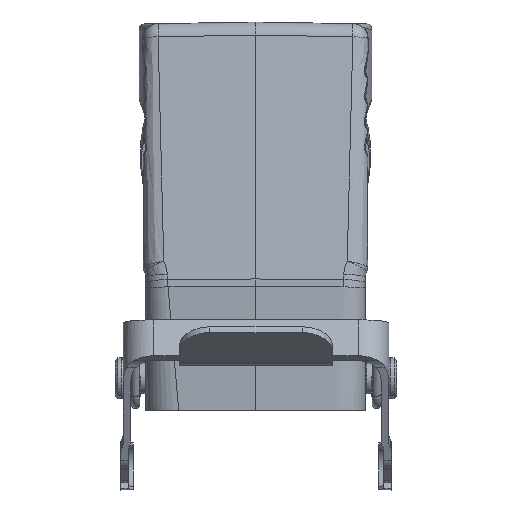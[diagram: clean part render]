
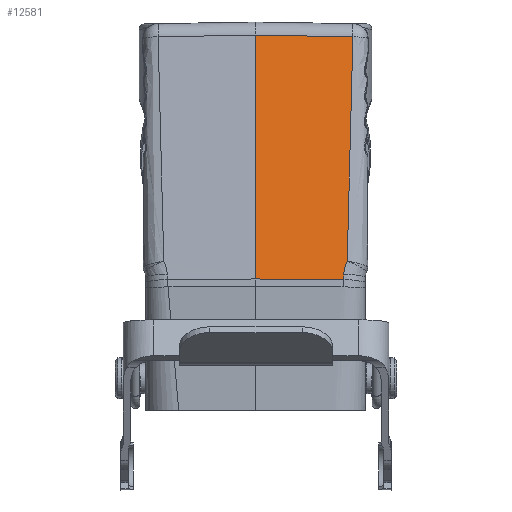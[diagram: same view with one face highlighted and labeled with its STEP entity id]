
A CAD part, left-side view. The second image highlights one B-rep face of the part: STEP entity #12581.
In plain terms, the highlighted planar face has unit normal (-0.989, -0.018, 0.145).
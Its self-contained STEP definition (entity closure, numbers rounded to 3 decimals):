
#323 = ORIENTED_EDGE ( 'NONE', *, *, #27216, .T. ) ;
#563 = DIRECTION ( 'NONE',  ( -0.145, 0., -0.989 ) ) ;
#1187 = CARTESIAN_POINT ( 'NONE',  ( -14.532, 47.298, 124.867 ) ) ;
#1442 = CARTESIAN_POINT ( 'NONE',  ( -13.727, 47.28, 130.341 ) ) ;
#2001 = ORIENTED_EDGE ( 'NONE', *, *, #18784, .T. ) ;
#2888 = CARTESIAN_POINT ( 'NONE',  ( -20.214, 66.335, 88.517 ) ) ;
#3151 = ORIENTED_EDGE ( 'NONE', *, *, #15235, .F. ) ;
#3262 = AXIS2_PLACEMENT_3D ( 'NONE', #36882, #12987, #563 ) ;
#3804 = VERTEX_POINT ( 'NONE', #14267 ) ;
#4220 = CARTESIAN_POINT ( 'NONE',  ( -14.527, 47.298, 124.905 ) ) ;
#4219 = LINE ( 'NONE', #36660, #25884 ) ;
#4260 = CARTESIAN_POINT ( 'NONE',  ( -19.833, 49.077, 89.036 ) ) ;
#4488 = CARTESIAN_POINT ( 'NONE',  ( -13.722, 47.28, 130.375 ) ) ;
#6033 = CARTESIAN_POINT ( 'NONE',  ( -12.91, 47.282, 135.898 ) ) ;
#7274 = CARTESIAN_POINT ( 'NONE',  ( -14.587, 47.3, 124.498 ) ) ;
#7665 = CARTESIAN_POINT ( 'NONE',  ( -16.001, 47.441, 114.897 ) ) ;
#8051 = CARTESIAN_POINT ( 'NONE',  ( -13.719, 47.28, 130.393 ) ) ;
#8201 = EDGE_LOOP ( 'NONE', ( #36410, #2001, #31442, #323, #16235, #3151 ) ) ;
#8940 = EDGE_CURVE ( 'NONE', #19335, #16814, #19454, .T. ) ;
#9425 = PLANE ( 'NONE',  #3262 ) ;
#9828 = B_SPLINE_CURVE_WITH_KNOTS ( 'NONE', 3,
 ( #19293, #10591, #4260, #13134 ),
 .UNSPECIFIED., .F., .F.,
 ( 4, 4 ),
 ( 0., 1. ),
 .UNSPECIFIED. ) ;
#10416 = CARTESIAN_POINT ( 'NONE',  ( -16.618, 47.551, 110.714 ) ) ;
#10591 = CARTESIAN_POINT ( 'NONE',  ( -19.883, 49.099, 88.7 ) ) ;
#10811 = CARTESIAN_POINT ( 'NONE',  ( -14.771, 47.309, 123.249 ) ) ;
#12581 = ADVANCED_FACE ( 'NONE', ( #22729 ), #9425, .T. ) ;
#12987 = DIRECTION ( 'NONE',  ( -0.989, -0.017, 0.145 ) ) ;
#13134 = CARTESIAN_POINT ( 'NONE',  ( -19.764, 49.053, 89.504 ) ) ;
#13343 = CARTESIAN_POINT ( 'NONE',  ( -14.234, 47.288, 126.898 ) ) ;
#13482 = CARTESIAN_POINT ( 'NONE',  ( -20.214, 66.335, 88.517 ) ) ;
#13485 = CARTESIAN_POINT ( 'NONE',  ( -16.15, 47.466, 113.885 ) ) ;
#13594 = CARTESIAN_POINT ( 'NONE',  ( -19.507, 48.736, 91.213 ) ) ;
#13609 = CARTESIAN_POINT ( 'NONE',  ( -13.855, 47.282, 129.473 ) ) ;
#13739 = CARTESIAN_POINT ( 'NONE',  ( -16.261, 47.485, 113.136 ) ) ;
#13871 = CARTESIAN_POINT ( 'NONE',  ( -13.425, 47.277, 132.397 ) ) ;
#14002 = CARTESIAN_POINT ( 'NONE',  ( -13.156, 47.278, 134.227 ) ) ;
#14238 = VERTEX_POINT ( 'NONE', #2888 ) ;
#14267 = CARTESIAN_POINT ( 'NONE',  ( -13.197, 66.335, 136.23 ) ) ;
#15235 = EDGE_CURVE ( 'NONE', #26158, #14238, #27961, .T. ) ;
#16235 = ORIENTED_EDGE ( 'NONE', *, *, #22852, .T. ) ;
#16357 = CARTESIAN_POINT ( 'NONE',  ( -13.787, 47.281, 129.936 ) ) ;
#16474 = CARTESIAN_POINT ( 'NONE',  ( -15.349, 47.356, 119.324 ) ) ;
#16752 = CARTESIAN_POINT ( 'NONE',  ( -16.176, 47.47, 113.713 ) ) ;
#16814 = VERTEX_POINT ( 'NONE', #35571 ) ;
#17192 = CARTESIAN_POINT ( 'NONE',  ( -19.384, 48.391, 92.014 ) ) ;
#17297 = CARTESIAN_POINT ( 'NONE',  ( -19.764, 49.053, 89.504 ) ) ;
#18272 = DIRECTION ( 'NONE',  ( -0.015, 1., 0.017 ) ) ;
#18529 = DIRECTION ( 'NONE',  ( -0.145, 0., -0.989 ) ) ;
#18784 = EDGE_CURVE ( 'NONE', #25319, #19335, #31548, .T. ) ;
#19254 = CARTESIAN_POINT ( 'NONE',  ( -14.54, 47.298, 124.814 ) ) ;
#19293 = CARTESIAN_POINT ( 'NONE',  ( -19.913, 49.117, 88.495 ) ) ;
#19335 = VERTEX_POINT ( 'NONE', #17192 ) ;
#19454 = B_SPLINE_CURVE_WITH_KNOTS ( 'NONE', 3,
 ( #21289, #37511, #22697, #22444, #10416, #25729, #13739, #22569, #16752, #34729, #13485, #7665, #25454, #19525, #31803, #25858, #31941, #16474, #34853, #28752, #10811, #34337, #7274, #28624, #19254, #1187, #22314, #4220, #28347, #31416, #13343, #34459, #13609, #16357, #28487, #37643, #1442, #4488, #8051, #13871, #14002, #35248 ),
 .UNSPECIFIED., .F., .F.,
 ( 4, 1, 1, 1, 1, 1, 1, 2, 2, 1, 1, 1, 2, 2, 1, 1, 1, 1, 1, 1, 1, 2, 2, 1, 1, 1, 1, 1, 1, 2, 2, 4 ),
 ( 0., 0.25, 0.375, 0.438, 0.469, 0.484, 0.492, 0.496, 0.5, 0.563, 0.594, 0.609, 0.617, 0.625, 0.688, 0.719, 0.734, 0.742, 0.746, 0.748, 0.749, 0.75, 0.75, 0.813, 0.844, 0.859, 0.867, 0.871, 0.873, 0.874, 0.875, 1. ),
 .UNSPECIFIED. ) ;
#19525 = CARTESIAN_POINT ( 'NONE',  ( -15.561, 47.38, 117.882 ) ) ;
#19647 = CARTESIAN_POINT ( 'NONE',  ( -19.764, 49.053, 89.504 ) ) ;
#21289 = CARTESIAN_POINT ( 'NONE',  ( -19.384, 48.391, 92.014 ) ) ;
#21759 = EDGE_CURVE ( 'NONE', #26158, #25319, #9828, .T. ) ;
#22314 = CARTESIAN_POINT ( 'NONE',  ( -14.529, 47.298, 124.89 ) ) ;
#22444 = CARTESIAN_POINT ( 'NONE',  ( -17.094, 47.651, 107.494 ) ) ;
#22569 = CARTESIAN_POINT ( 'NONE',  ( -16.201, 47.475, 113.54 ) ) ;
#22697 = CARTESIAN_POINT ( 'NONE',  ( -18.041, 47.893, 101.079 ) ) ;
#22729 = FACE_OUTER_BOUND ( 'NONE', #8201, .T. ) ;
#22852 = EDGE_CURVE ( 'NONE', #3804, #14238, #4219, .T. ) ;
#25319 = VERTEX_POINT ( 'NONE', #17297 ) ;
#25454 = CARTESIAN_POINT ( 'NONE',  ( -15.795, 47.41, 116.298 ) ) ;
#25581 = CARTESIAN_POINT ( 'NONE',  ( -19.444, 48.584, 91.621 ) ) ;
#25726 = CARTESIAN_POINT ( 'NONE',  ( -20.014, 54.856, 88.502 ) ) ;
#25729 = CARTESIAN_POINT ( 'NONE',  ( -16.38, 47.506, 112.328 ) ) ;
#25858 = CARTESIAN_POINT ( 'NONE',  ( -15.398, 47.361, 118.992 ) ) ;
#25884 = VECTOR ( 'NONE', #18529, 1000. ) ;
#26158 = VERTEX_POINT ( 'NONE', #27894 ) ;
#27216 = EDGE_CURVE ( 'NONE', #16814, #3804, #38052, .T. ) ;
#27894 = CARTESIAN_POINT ( 'NONE',  ( -19.913, 49.117, 88.495 ) ) ;
#27961 = B_SPLINE_CURVE_WITH_KNOTS ( 'NONE', 3,
 ( #31938, #25726, #28749, #13482 ),
 .UNSPECIFIED., .F., .F.,
 ( 4, 4 ),
 ( 0., 1. ),
 .UNSPECIFIED. ) ;
#28347 = CARTESIAN_POINT ( 'NONE',  ( -14.526, 47.298, 124.914 ) ) ;
#28487 = CARTESIAN_POINT ( 'NONE',  ( -13.752, 47.281, 130.171 ) ) ;
#28624 = CARTESIAN_POINT ( 'NONE',  ( -14.556, 47.299, 124.709 ) ) ;
#28749 = CARTESIAN_POINT ( 'NONE',  ( -20.114, 60.595, 88.509 ) ) ;
#28752 = CARTESIAN_POINT ( 'NONE',  ( -15.01, 47.324, 121.625 ) ) ;
#31416 = CARTESIAN_POINT ( 'NONE',  ( -14.416, 47.293, 125.658 ) ) ;
#31442 = ORIENTED_EDGE ( 'NONE', *, *, #8940, .T. ) ;
#31548 = B_SPLINE_CURVE_WITH_KNOTS ( 'NONE', 3,
 ( #19647, #37890, #31655, #13594, #25581, #37758 ),
 .UNSPECIFIED., .F., .F.,
 ( 4, 2, 4 ),
 ( 0., 0.5, 1. ),
 .UNSPECIFIED. ) ;
#31655 = CARTESIAN_POINT ( 'NONE',  ( -19.635, 48.959, 90.368 ) ) ;
#31803 = CARTESIAN_POINT ( 'NONE',  ( -15.446, 47.366, 118.661 ) ) ;
#31938 = CARTESIAN_POINT ( 'NONE',  ( -19.913, 49.117, 88.495 ) ) ;
#31941 = CARTESIAN_POINT ( 'NONE',  ( -15.365, 47.357, 119.212 ) ) ;
#34337 = CARTESIAN_POINT ( 'NONE',  ( -14.648, 47.303, 124.079 ) ) ;
#34459 = CARTESIAN_POINT ( 'NONE',  ( -13.987, 47.284, 128.576 ) ) ;
#34729 = CARTESIAN_POINT ( 'NONE',  ( -16.159, 47.467, 113.829 ) ) ;
#34853 = CARTESIAN_POINT ( 'NONE',  ( -15.206, 47.341, 120.293 ) ) ;
#35248 = CARTESIAN_POINT ( 'NONE',  ( -12.91, 47.282, 135.898 ) ) ;
#35571 = CARTESIAN_POINT ( 'NONE',  ( -12.91, 47.282, 135.898 ) ) ;
#36193 = VECTOR ( 'NONE', #18272, 1000. ) ;
#36410 = ORIENTED_EDGE ( 'NONE', *, *, #21759, .T. ) ;
#36660 = CARTESIAN_POINT ( 'NONE',  ( -20.32, 66.335, 87.793 ) ) ;
#36882 = CARTESIAN_POINT ( 'NONE',  ( -20.32, 66.335, 87.793 ) ) ;
#37511 = CARTESIAN_POINT ( 'NONE',  ( -18.848, 48.172, 95.627 ) ) ;
#37643 = CARTESIAN_POINT ( 'NONE',  ( -13.735, 47.28, 130.29 ) ) ;
#37758 = CARTESIAN_POINT ( 'NONE',  ( -19.384, 48.391, 92.014 ) ) ;
#37890 = CARTESIAN_POINT ( 'NONE',  ( -19.699, 49.027, 89.94 ) ) ;
#38052 = LINE ( 'NONE', #6033, #36193 ) ;
